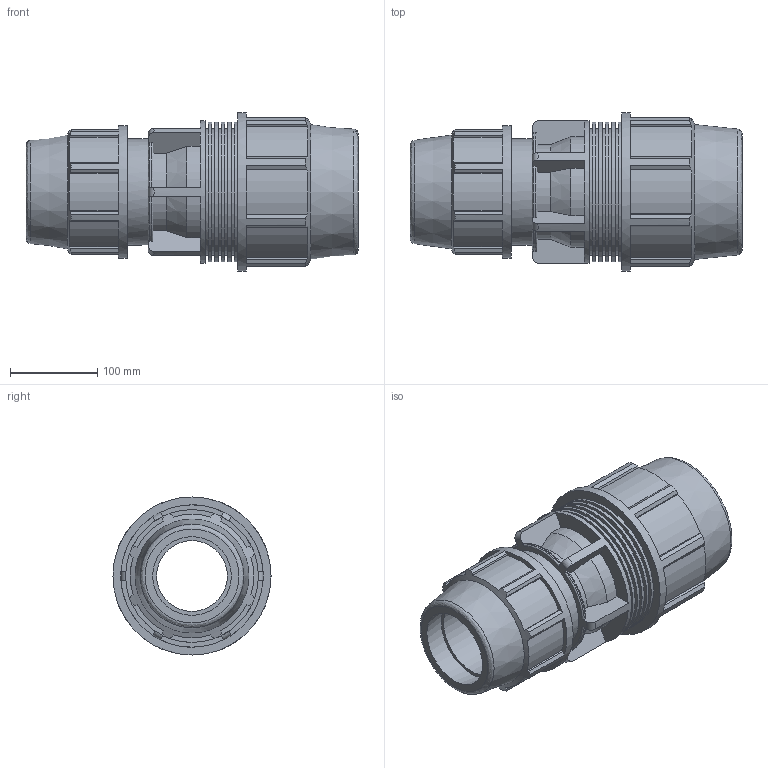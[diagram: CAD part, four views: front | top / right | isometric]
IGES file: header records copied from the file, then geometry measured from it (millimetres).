
Global section: file name: 871100110090_181100110090.ipt; native system: Autodesk Inventor 2015; preprocessor: unknown; author: KIM; date: 20170608.042525; units: millimetre
Bounding box: 380 x 181 x 181 mm (x, y, z)
Volume: 3318799.2 mm3; surface area: 404375.1 mm2
Topology: 1 solids, 1 shells, 207 faces, 580 edges, 392 vertices
Faces by surface type: plane 123, cylinder 54, revolution 20, cone 10
Full cylindrical faces by diameter (mm): 121.6 x1, 144.8 x5, 152 x1, 159.642 x5, 162.9 x1, 181 x1
